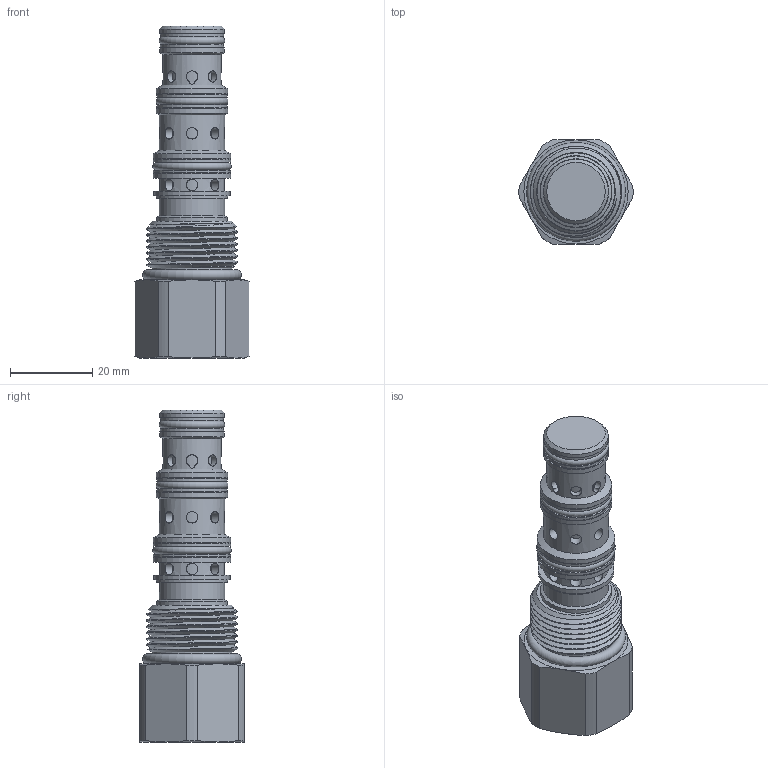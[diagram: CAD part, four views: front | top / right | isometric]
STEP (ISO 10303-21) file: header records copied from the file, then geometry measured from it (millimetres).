
FILE_DESCRIPTION(/* description */ ('DG-PDD-00-0100'),/* implementation_level */ '2;1');
FILE_NAME(/* name */ 'P:\EARS\EAR16xx\EAR1683 - catalog pages changes\Group1_Distribution 11_22_22\RTeck Agency_Tom\_SolidModels\DGPDD00.stp',/* time_stamp */ '2022-12-12T11:23:56-06:00',/* author */ ('Michael'),/* organization */ (''),/* preprocessor_version */ 'ST-DEVELOPER v17.2',/* originating_system */ 'Autodesk Inventor 2019',/* authorisation */ '');
FILE_SCHEMA (('AUTOMOTIVE_DESIGN { 1 0 10303 214 3 1 1 }'));
Length unit declared in the file: inch
Products named in the file (1): DGPDD00
Bounding box: 27.82 x 25.4 x 80.92 mm (x, y, z)
Volume: 25265.2 mm3; surface area: 9654.5 mm2
Topology: 3 solids, 3 shells, 166 faces, 413 edges, 298 vertices
Faces by surface type: cylinder 101, plane 39, cone 20, torus 4, bspline 2
Full cylindrical faces by diameter (mm): 1.981 x1, 2.794 x20, 12.992 x4, 14.3 x1, 14.592 x2, 14.605 x2, 15.392 x2, 15.773 x2, 15.875 x3, 16.167 x4, 17.302 x2, 17.323 x2, 17.374 x2, 17.399 x1, 18.542 x1, 18.86 x2, 18.948 x2, 19.621 x2, 22.225 x5
Entity records: 8464 total; most frequent: CARTESIAN_POINT 4372, ORIENTED_EDGE 826, DIRECTION 766, EDGE_CURVE 413, AXIS2_PLACEMENT_3D 335, VERTEX_POINT 298, EDGE_LOOP 218, CIRCLE 170
